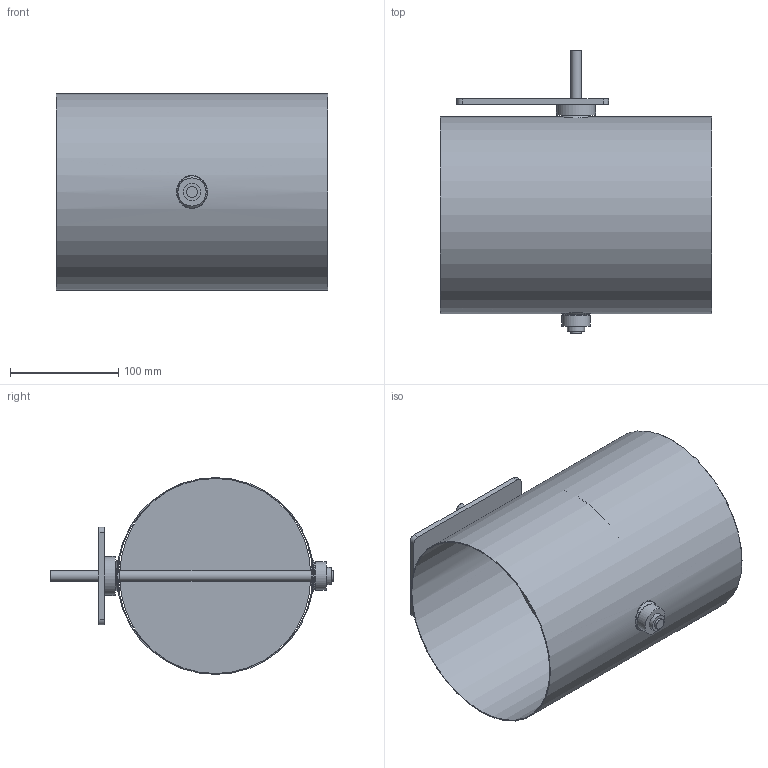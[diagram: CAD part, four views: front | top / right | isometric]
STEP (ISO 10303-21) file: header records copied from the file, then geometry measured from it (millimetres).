
FILE_DESCRIPTION(/* description */ (''),/* implementation_level */ '2;1');
FILE_NAME(/* name */ 'AA126-80B__180_L250_Belimo_Typ_NM.stp',/* time_stamp */ '2017-12-06T14:02:12+01:00',/* author */ (''),/* organization */ (''),/* preprocessor_version */ 'ST-DEVELOPER v11',/* originating_system */ 'SIEMENS UGS NX 6.0',/* authorisation */ '');
FILE_SCHEMA (('CONFIG_CONTROL_DESIGN'));
Length unit declared in the file: millimetre
Products named in the file (1): gars18E2j245
Bounding box: 250 x 261 x 181.6 mm (x, y, z)
Volume: 238703.6 mm3; surface area: 380562.5 mm2
Topology: 8 solids, 8 shells, 66 faces, 142 edges, 98 vertices
Faces by surface type: plane 28, cylinder 26, cone 4, bspline 4, torus 4
Full cylindrical faces by diameter (mm): 4.1 x4, 10 x3, 15 x3, 15.85 x2, 16 x2, 24 x2, 26 x1, 36 x1, 180 x1, 181.6 x1
Entity records: 2194 total; most frequent: CARTESIAN_POINT 841, DIRECTION 270, ORIENTED_EDGE 184, EDGE_LOOP 128, AXIS2_PLACEMENT_3D 123, FACE_BOUND 114, EDGE_CURVE 92, VERTEX_POINT 80
